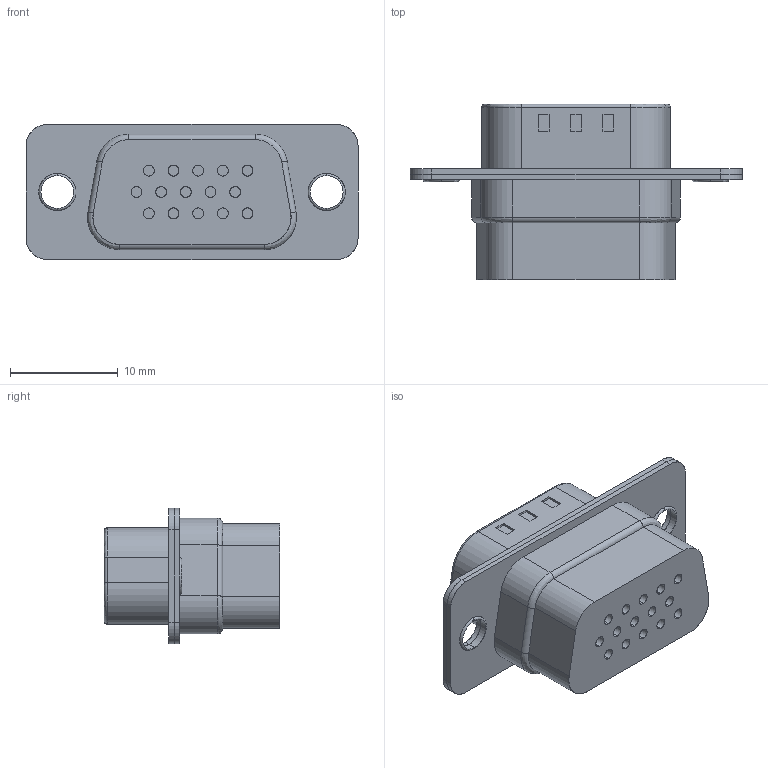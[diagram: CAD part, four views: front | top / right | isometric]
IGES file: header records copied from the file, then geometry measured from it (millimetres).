
Start section: SolidWorks IGES file using analytic representation for surfaces
Global section: file name: G:\rd03\3DS\7918-15MTBA\7918-15MTBA.IGS; native system: SolidWorks 2011; preprocessor: SolidWorks 2011; author: rd03; date: 150708.132100; units: millimetre
Bounding box: 30.81 x 16.3 x 12.55 mm (x, y, z)
Surface area: 3299.7 mm2 (no closed solid volume)
Topology: 0 solids, 0 shells, 232 faces, 2792 edges, 2792 vertices
Faces by surface type: revolution 130, bspline 102
